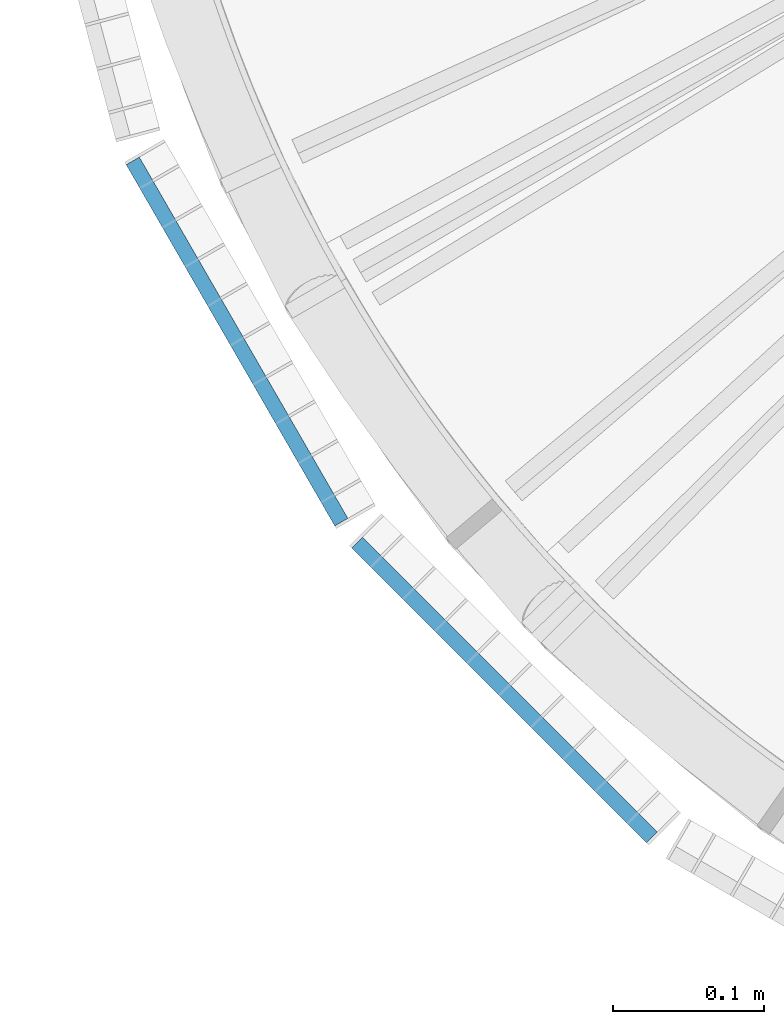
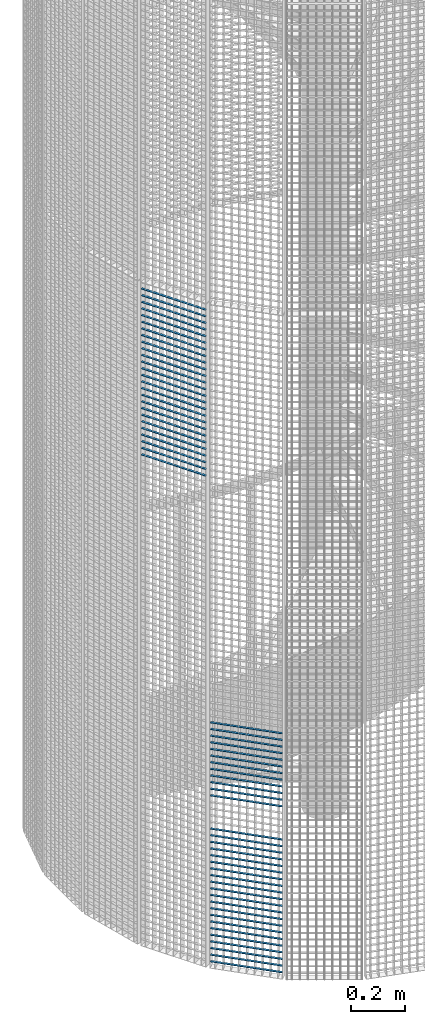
# One storey, part 129 of 1148: 59 beams, 2 elements without a shape of their own.
"""IFC2X3 building model written with IfcOpenShell, lengths in millimetres."""

from ifc_helpers import new_model, si_unit, frame, origin_with_axes, origin_2d_with_axis, place, context, subcontext, project, spatial, rectangle, extrude, material, type_object, element, aggregate, save


model = new_model("IFC2X3")

# Units and contexts
model_context = context("Model", 3, precision=1e-05, world=origin_with_axes())
body_context = subcontext(model_context, "Body", "Model", "MODEL_VIEW")
ifc_project = project(units=[si_unit("LENGTHUNIT", "METRE", prefix="MILLI"), si_unit("AREAUNIT", "SQUARE_METRE"), si_unit("VOLUMEUNIT", "CUBIC_METRE"), si_unit("MASSUNIT", "GRAM", prefix="KILO"), si_unit("TIMEUNIT", "SECOND"), si_unit("PLANEANGLEUNIT", "RADIAN"), si_unit("SOLIDANGLEUNIT", "STERADIAN"), si_unit("THERMODYNAMICTEMPERATUREUNIT", "DEGREE_CELSIUS"), si_unit("LUMINOUSINTENSITYUNIT", "LUMEN")], contexts=[model_context])

# Site, building, storey
site_placement = place(None, origin_with_axes())
site = spatial("IfcSite", under=ifc_project, at=site_placement, Name="Undefined", CompositionType="ELEMENT")
building_placement = place(site_placement, origin_with_axes())
building = spatial("IfcBuilding", under=site, at=building_placement, Name="Undefined", CompositionType="ELEMENT")
storey_placement = place(building_placement, origin_with_axes())
storey = spatial("IfcBuildingStorey", under=building, at=storey_placement, Name="Undefined", CompositionType="ELEMENT", Elevation=0.0)

# Assembly, beams
assembly_1_placement = place(storey_placement, origin_with_axes())
assembly_1 = element("IfcElementAssembly", 1, at=assembly_1_placement, inside=storey, Name="BORDURE", AssemblyPlace="NOTDEFINED", PredefinedType="NOTDEFINED")
ifc_material = material(Name="STEEL/S235JR")
beam_type = type_object("IfcBeamType", Name="PL2*10", PredefinedType="NOTDEFINED")
beam_1_placement = place(assembly_1_placement, frame((-884.927168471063, -689.771348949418, 629.999999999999), z_axis=(-0.70710678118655, -0.707106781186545, 0.0), x_axis=(0.707106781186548, -0.707106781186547, 0.0)))
beam_1 = element("IfcBeam", 2, at=beam_1_placement, type_object=beam_type, material=ifc_material, Name="ENTRETOISE", context=body_context, shape_type="SweptSolid", body=[
    extrude(rectangle(XDim=2.0, YDim=10.0, at=origin_2d_with_axis()), frame((275.999999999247, 9.09494701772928e-13, 1.53210777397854e-14), z_axis=(-1.0, 0.0, 0.0), x_axis=(0.0, -1.0, 0.0)), (0.0, 0.0, 1.0), 276.0),
])
beam_2_placement = place(assembly_1_placement, frame((-884.927168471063, -689.771348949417, 779.999999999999), z_axis=(-0.70710678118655, -0.707106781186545, 0.0), x_axis=(0.707106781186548, -0.707106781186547, 0.0)))
beam_2 = element("IfcBeam", 3, at=beam_2_placement, type_object=beam_type, material=ifc_material, Name="ENTRETOISE", context=body_context, shape_type="SweptSolid", body=[
    extrude(rectangle(XDim=2.0, YDim=10.0, at=origin_2d_with_axis()), frame((275.999999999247, 9.09494701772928e-13, 1.53210777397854e-14), z_axis=(-1.0, 0.0, 0.0), x_axis=(0.0, -1.0, 0.0)), (0.0, 0.0, 1.0), 276.0),
])
beam_3_placement = place(assembly_1_placement, frame((-884.927168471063, -689.771348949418, 599.999999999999), z_axis=(-0.70710678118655, -0.707106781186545, 0.0), x_axis=(0.707106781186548, -0.707106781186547, 0.0)))
beam_3 = element("IfcBeam", 4, at=beam_3_placement, type_object=beam_type, material=ifc_material, Name="ENTRETOISE", context=body_context, shape_type="SweptSolid", body=[
    extrude(rectangle(XDim=2.0, YDim=10.0, at=origin_2d_with_axis()), frame((275.999999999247, 9.09494701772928e-13, 1.53210777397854e-14), z_axis=(-1.0, 0.0, 0.0), x_axis=(0.0, -1.0, 0.0)), (0.0, 0.0, 1.0), 276.0),
])
beam_4_placement = place(assembly_1_placement, frame((-884.927168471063, -689.771348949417, 809.999999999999), z_axis=(-0.70710678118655, -0.707106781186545, 0.0), x_axis=(0.707106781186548, -0.707106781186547, 0.0)))
beam_4 = element("IfcBeam", 5, at=beam_4_placement, type_object=beam_type, material=ifc_material, Name="ENTRETOISE", context=body_context, shape_type="SweptSolid", body=[
    extrude(rectangle(XDim=2.0, YDim=10.0, at=origin_2d_with_axis()), frame((275.999999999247, 9.09494701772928e-13, 1.53210777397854e-14), z_axis=(-1.0, 0.0, 0.0), x_axis=(0.0, -1.0, 0.0)), (0.0, 0.0, 1.0), 276.0),
])
beam_5_placement = place(assembly_1_placement, frame((-884.927168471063, -689.771348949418, 569.999999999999), z_axis=(-0.70710678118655, -0.707106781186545, 0.0), x_axis=(0.707106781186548, -0.707106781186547, 0.0)))
beam_5 = element("IfcBeam", 6, at=beam_5_placement, type_object=beam_type, material=ifc_material, Name="ENTRETOISE", context=body_context, shape_type="SweptSolid", body=[
    extrude(rectangle(XDim=2.0, YDim=10.0, at=origin_2d_with_axis()), frame((275.999999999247, 9.09494701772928e-13, 1.53210777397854e-14), z_axis=(-1.0, 0.0, 0.0), x_axis=(0.0, -1.0, 0.0)), (0.0, 0.0, 1.0), 276.0),
])
beam_6_placement = place(assembly_1_placement, frame((-884.927168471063, -689.771348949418, 539.999999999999), z_axis=(-0.70710678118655, -0.707106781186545, 0.0), x_axis=(0.707106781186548, -0.707106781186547, 0.0)))
beam_6 = element("IfcBeam", 7, at=beam_6_placement, type_object=beam_type, material=ifc_material, Name="ENTRETOISE", context=body_context, shape_type="SweptSolid", body=[
    extrude(rectangle(XDim=2.0, YDim=10.0, at=origin_2d_with_axis()), frame((275.999999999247, 9.09494701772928e-13, 1.53210777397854e-14), z_axis=(-1.0, 0.0, 0.0), x_axis=(0.0, -1.0, 0.0)), (0.0, 0.0, 1.0), 276.0),
])
beam_7_placement = place(assembly_1_placement, frame((-884.927168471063, -689.771348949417, 839.999999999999), z_axis=(-0.70710678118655, -0.707106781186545, 0.0), x_axis=(0.707106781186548, -0.707106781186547, 0.0)))
beam_7 = element("IfcBeam", 8, at=beam_7_placement, type_object=beam_type, material=ifc_material, Name="ENTRETOISE", context=body_context, shape_type="SweptSolid", body=[
    extrude(rectangle(XDim=2.0, YDim=10.0, at=origin_2d_with_axis()), frame((275.999999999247, 9.09494701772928e-13, 1.53210777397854e-14), z_axis=(-1.0, 0.0, 0.0), x_axis=(0.0, -1.0, 0.0)), (0.0, 0.0, 1.0), 276.0),
])
beam_8_placement = place(assembly_1_placement, frame((-884.927168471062, -689.771348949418, 509.999999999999), z_axis=(-0.70710678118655, -0.707106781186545, 0.0), x_axis=(0.707106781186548, -0.707106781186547, 0.0)))
beam_8 = element("IfcBeam", 9, at=beam_8_placement, type_object=beam_type, material=ifc_material, Name="ENTRETOISE", context=body_context, shape_type="SweptSolid", body=[
    extrude(rectangle(XDim=2.0, YDim=10.0, at=origin_2d_with_axis()), frame((275.999999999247, 9.09494701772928e-13, 1.53210777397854e-14), z_axis=(-1.0, 0.0, 0.0), x_axis=(0.0, -1.0, 0.0)), (0.0, 0.0, 1.0), 276.0),
])
beam_9_placement = place(assembly_1_placement, frame((-884.927168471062, -689.771348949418, 479.999999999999), z_axis=(-0.70710678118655, -0.707106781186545, 0.0), x_axis=(0.707106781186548, -0.707106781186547, 0.0)))
beam_9 = element("IfcBeam", 10, at=beam_9_placement, type_object=beam_type, material=ifc_material, Name="ENTRETOISE", context=body_context, shape_type="SweptSolid", body=[
    extrude(rectangle(XDim=2.0, YDim=10.0, at=origin_2d_with_axis()), frame((275.999999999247, 9.09494701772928e-13, 1.53210777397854e-14), z_axis=(-1.0, 0.0, 0.0), x_axis=(0.0, -1.0, 0.0)), (0.0, 0.0, 1.0), 276.0),
])
beam_10_placement = place(assembly_1_placement, frame((-884.927168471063, -689.771348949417, 869.999999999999), z_axis=(-0.70710678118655, -0.707106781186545, 0.0), x_axis=(0.707106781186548, -0.707106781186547, 0.0)))
beam_10 = element("IfcBeam", 11, at=beam_10_placement, type_object=beam_type, material=ifc_material, Name="ENTRETOISE", context=body_context, shape_type="SweptSolid", body=[
    extrude(rectangle(XDim=2.0, YDim=10.0, at=origin_2d_with_axis()), frame((275.999999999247, 9.09494701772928e-13, 1.53210777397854e-14), z_axis=(-1.0, 0.0, 0.0), x_axis=(0.0, -1.0, 0.0)), (0.0, 0.0, 1.0), 276.0),
])
beam_11_placement = place(assembly_1_placement, frame((-884.927168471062, -689.771348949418, 449.999999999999), z_axis=(-0.70710678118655, -0.707106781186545, 0.0), x_axis=(0.707106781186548, -0.707106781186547, 0.0)))
beam_11 = element("IfcBeam", 12, at=beam_11_placement, type_object=beam_type, material=ifc_material, Name="ENTRETOISE", context=body_context, shape_type="SweptSolid", body=[
    extrude(rectangle(XDim=2.0, YDim=10.0, at=origin_2d_with_axis()), frame((275.999999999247, 9.09494701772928e-13, 1.53210777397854e-14), z_axis=(-1.0, 0.0, 0.0), x_axis=(0.0, -1.0, 0.0)), (0.0, 0.0, 1.0), 276.0),
])
beam_12_placement = place(assembly_1_placement, frame((-884.927168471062, -689.771348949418, 419.999999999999), z_axis=(-0.70710678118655, -0.707106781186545, 0.0), x_axis=(0.707106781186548, -0.707106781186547, 0.0)))
beam_12 = element("IfcBeam", 13, at=beam_12_placement, type_object=beam_type, material=ifc_material, Name="ENTRETOISE", context=body_context, shape_type="SweptSolid", body=[
    extrude(rectangle(XDim=2.0, YDim=10.0, at=origin_2d_with_axis()), frame((275.999999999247, 9.09494701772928e-13, 1.53210777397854e-14), z_axis=(-1.0, 0.0, 0.0), x_axis=(0.0, -1.0, 0.0)), (0.0, 0.0, 1.0), 276.0),
])
beam_13_placement = place(assembly_1_placement, frame((-884.927168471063, -689.771348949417, 899.999999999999), z_axis=(-0.70710678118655, -0.707106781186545, 0.0), x_axis=(0.707106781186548, -0.707106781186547, 0.0)))
beam_13 = element("IfcBeam", 14, at=beam_13_placement, type_object=beam_type, material=ifc_material, Name="ENTRETOISE", context=body_context, shape_type="SweptSolid", body=[
    extrude(rectangle(XDim=2.0, YDim=10.0, at=origin_2d_with_axis()), frame((275.999999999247, 9.09494701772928e-13, 1.53210777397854e-14), z_axis=(-1.0, 0.0, 0.0), x_axis=(0.0, -1.0, 0.0)), (0.0, 0.0, 1.0), 276.0),
])
beam_14_placement = place(assembly_1_placement, frame((-884.927168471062, -689.771348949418, 389.999999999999), z_axis=(-0.70710678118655, -0.707106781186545, 0.0), x_axis=(0.707106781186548, -0.707106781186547, 0.0)))
beam_14 = element("IfcBeam", 15, at=beam_14_placement, type_object=beam_type, material=ifc_material, Name="ENTRETOISE", context=body_context, shape_type="SweptSolid", body=[
    extrude(rectangle(XDim=2.0, YDim=10.0, at=origin_2d_with_axis()), frame((275.999999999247, 9.09494701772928e-13, 1.53210777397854e-14), z_axis=(-1.0, 0.0, 0.0), x_axis=(0.0, -1.0, 0.0)), (0.0, 0.0, 1.0), 276.0),
])
beam_15_placement = place(assembly_1_placement, frame((-884.927168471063, -689.771348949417, 929.999999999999), z_axis=(-0.70710678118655, -0.707106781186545, 0.0), x_axis=(0.707106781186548, -0.707106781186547, 0.0)))
beam_15 = element("IfcBeam", 16, at=beam_15_placement, type_object=beam_type, material=ifc_material, Name="ENTRETOISE", context=body_context, shape_type="SweptSolid", body=[
    extrude(rectangle(XDim=2.0, YDim=10.0, at=origin_2d_with_axis()), frame((275.999999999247, 9.09494701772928e-13, 1.53210777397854e-14), z_axis=(-1.0, 0.0, 0.0), x_axis=(0.0, -1.0, 0.0)), (0.0, 0.0, 1.0), 276.0),
])
beam_16_placement = place(assembly_1_placement, frame((-884.927168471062, -689.771348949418, 359.999999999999), z_axis=(-0.70710678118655, -0.707106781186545, 0.0), x_axis=(0.707106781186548, -0.707106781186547, 0.0)))
beam_16 = element("IfcBeam", 17, at=beam_16_placement, type_object=beam_type, material=ifc_material, Name="ENTRETOISE", context=body_context, shape_type="SweptSolid", body=[
    extrude(rectangle(XDim=2.0, YDim=10.0, at=origin_2d_with_axis()), frame((275.999999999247, 9.09494701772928e-13, 1.53210777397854e-14), z_axis=(-1.0, 0.0, 0.0), x_axis=(0.0, -1.0, 0.0)), (0.0, 0.0, 1.0), 276.0),
])
beam_17_placement = place(assembly_1_placement, frame((-884.927168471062, -689.771348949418, 329.999999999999), z_axis=(-0.70710678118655, -0.707106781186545, 0.0), x_axis=(0.707106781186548, -0.707106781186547, 0.0)))
beam_17 = element("IfcBeam", 18, at=beam_17_placement, type_object=beam_type, material=ifc_material, Name="ENTRETOISE", context=body_context, shape_type="SweptSolid", body=[
    extrude(rectangle(XDim=2.0, YDim=10.0, at=origin_2d_with_axis()), frame((275.999999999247, 9.09494701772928e-13, 1.53210777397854e-14), z_axis=(-1.0, 0.0, 0.0), x_axis=(0.0, -1.0, 0.0)), (0.0, 0.0, 1.0), 276.0),
])
beam_18_placement = place(assembly_1_placement, frame((-884.927168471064, -689.771348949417, 959.999999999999), z_axis=(-0.70710678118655, -0.707106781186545, 0.0), x_axis=(0.707106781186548, -0.707106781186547, 0.0)))
beam_18 = element("IfcBeam", 19, at=beam_18_placement, type_object=beam_type, material=ifc_material, Name="ENTRETOISE", context=body_context, shape_type="SweptSolid", body=[
    extrude(rectangle(XDim=2.0, YDim=10.0, at=origin_2d_with_axis()), frame((275.999999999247, 9.09494701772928e-13, 1.53210777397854e-14), z_axis=(-1.0, 0.0, 0.0), x_axis=(0.0, -1.0, 0.0)), (0.0, 0.0, 1.0), 276.0),
])
beam_19_placement = place(assembly_1_placement, frame((-884.927168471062, -689.771348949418, 299.999999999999), z_axis=(-0.70710678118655, -0.707106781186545, 0.0), x_axis=(0.707106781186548, -0.707106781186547, 0.0)))
beam_19 = element("IfcBeam", 20, at=beam_19_placement, type_object=beam_type, material=ifc_material, Name="ENTRETOISE", context=body_context, shape_type="SweptSolid", body=[
    extrude(rectangle(XDim=2.0, YDim=10.0, at=origin_2d_with_axis()), frame((275.999999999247, 9.09494701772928e-13, 1.53210777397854e-14), z_axis=(-1.0, 0.0, 0.0), x_axis=(0.0, -1.0, 0.0)), (0.0, 0.0, 1.0), 276.0),
])
beam_20_placement = place(assembly_1_placement, frame((-884.927168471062, -689.771348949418, 269.999999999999), z_axis=(-0.70710678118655, -0.707106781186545, 0.0), x_axis=(0.707106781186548, -0.707106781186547, 0.0)))
beam_20 = element("IfcBeam", 21, at=beam_20_placement, type_object=beam_type, material=ifc_material, Name="ENTRETOISE", context=body_context, shape_type="SweptSolid", body=[
    extrude(rectangle(XDim=2.0, YDim=10.0, at=origin_2d_with_axis()), frame((275.999999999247, 9.09494701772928e-13, 1.53210777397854e-14), z_axis=(-1.0, 0.0, 0.0), x_axis=(0.0, -1.0, 0.0)), (0.0, 0.0, 1.0), 276.0),
])
beam_21_placement = place(assembly_1_placement, frame((-884.927168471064, -689.771348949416, 989.999999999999), z_axis=(-0.70710678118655, -0.707106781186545, 0.0), x_axis=(0.707106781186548, -0.707106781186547, 0.0)))
beam_21 = element("IfcBeam", 22, at=beam_21_placement, type_object=beam_type, material=ifc_material, Name="ENTRETOISE", context=body_context, shape_type="SweptSolid", body=[
    extrude(rectangle(XDim=2.0, YDim=10.0, at=origin_2d_with_axis()), frame((275.999999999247, 9.09494701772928e-13, 1.53210777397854e-14), z_axis=(-1.0, 0.0, 0.0), x_axis=(0.0, -1.0, 0.0)), (0.0, 0.0, 1.0), 276.0),
])
beam_22_placement = place(assembly_1_placement, frame((-884.927168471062, -689.771348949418, 239.999999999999), z_axis=(-0.70710678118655, -0.707106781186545, 0.0), x_axis=(0.707106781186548, -0.707106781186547, 0.0)))
beam_22 = element("IfcBeam", 23, at=beam_22_placement, type_object=beam_type, material=ifc_material, Name="ENTRETOISE", context=body_context, shape_type="SweptSolid", body=[
    extrude(rectangle(XDim=2.0, YDim=10.0, at=origin_2d_with_axis()), frame((275.999999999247, 9.09494701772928e-13, 1.53210777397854e-14), z_axis=(-1.0, 0.0, 0.0), x_axis=(0.0, -1.0, 0.0)), (0.0, 0.0, 1.0), 276.0),
])
beam_23_placement = place(assembly_1_placement, frame((-884.927168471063, -689.771348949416, 1020.0), z_axis=(-0.70710678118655, -0.707106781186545, 0.0), x_axis=(0.707106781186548, -0.707106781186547, 0.0)))
beam_23 = element("IfcBeam", 24, at=beam_23_placement, type_object=beam_type, material=ifc_material, Name="ENTRETOISE", context=body_context, shape_type="SweptSolid", body=[
    extrude(rectangle(XDim=2.0, YDim=10.0, at=origin_2d_with_axis()), frame((275.999999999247, 9.09494701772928e-13, 1.53210777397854e-14), z_axis=(-1.0, 0.0, 0.0), x_axis=(0.0, -1.0, 0.0)), (0.0, 0.0, 1.0), 276.0),
])
beam_24_placement = place(assembly_1_placement, frame((-884.927168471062, -689.771348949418, 209.999999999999), z_axis=(-0.70710678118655, -0.707106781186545, 0.0), x_axis=(0.707106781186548, -0.707106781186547, 0.0)))
beam_24 = element("IfcBeam", 25, at=beam_24_placement, type_object=beam_type, material=ifc_material, Name="ENTRETOISE", context=body_context, shape_type="SweptSolid", body=[
    extrude(rectangle(XDim=2.0, YDim=10.0, at=origin_2d_with_axis()), frame((275.999999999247, 9.09494701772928e-13, 1.53210777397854e-14), z_axis=(-1.0, 0.0, 0.0), x_axis=(0.0, -1.0, 0.0)), (0.0, 0.0, 1.0), 276.0),
])
beam_25_placement = place(assembly_1_placement, frame((-884.927168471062, -689.771348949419, 179.999999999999), z_axis=(-0.70710678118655, -0.707106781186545, 0.0), x_axis=(0.707106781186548, -0.707106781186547, 0.0)))
beam_25 = element("IfcBeam", 26, at=beam_25_placement, type_object=beam_type, material=ifc_material, Name="ENTRETOISE", context=body_context, shape_type="SweptSolid", body=[
    extrude(rectangle(XDim=2.0, YDim=10.0, at=origin_2d_with_axis()), frame((275.999999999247, 9.09494701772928e-13, 1.53210777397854e-14), z_axis=(-1.0, 0.0, 0.0), x_axis=(0.0, -1.0, 0.0)), (0.0, 0.0, 1.0), 276.0),
])
beam_26_placement = place(assembly_1_placement, frame((-884.927168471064, -689.771348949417, 1050.0), z_axis=(-0.70710678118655, -0.707106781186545, 0.0), x_axis=(0.707106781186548, -0.707106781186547, 0.0)))
beam_26 = element("IfcBeam", 27, at=beam_26_placement, type_object=beam_type, material=ifc_material, Name="ENTRETOISE", context=body_context, shape_type="SweptSolid", body=[
    extrude(rectangle(XDim=2.0, YDim=10.0, at=origin_2d_with_axis()), frame((275.999999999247, 9.09494701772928e-13, 1.53210777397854e-14), z_axis=(-1.0, 0.0, 0.0), x_axis=(0.0, -1.0, 0.0)), (0.0, 0.0, 1.0), 276.0),
])
beam_27_placement = place(assembly_1_placement, frame((-884.927168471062, -689.771348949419, 149.999999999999), z_axis=(-0.70710678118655, -0.707106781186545, 0.0), x_axis=(0.707106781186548, -0.707106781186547, 0.0)))
beam_27 = element("IfcBeam", 28, at=beam_27_placement, type_object=beam_type, material=ifc_material, Name="ENTRETOISE", context=body_context, shape_type="SweptSolid", body=[
    extrude(rectangle(XDim=2.0, YDim=10.0, at=origin_2d_with_axis()), frame((275.999999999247, 9.09494701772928e-13, 1.53210777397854e-14), z_axis=(-1.0, 0.0, 0.0), x_axis=(0.0, -1.0, 0.0)), (0.0, 0.0, 1.0), 276.0),
])
beam_28_placement = place(assembly_1_placement, frame((-884.927168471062, -689.771348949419, 119.999999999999), z_axis=(-0.70710678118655, -0.707106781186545, 0.0), x_axis=(0.707106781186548, -0.707106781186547, 0.0)))
beam_28 = element("IfcBeam", 29, at=beam_28_placement, type_object=beam_type, material=ifc_material, Name="ENTRETOISE", context=body_context, shape_type="SweptSolid", body=[
    extrude(rectangle(XDim=2.0, YDim=10.0, at=origin_2d_with_axis()), frame((275.999999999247, 9.09494701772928e-13, 1.53210777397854e-14), z_axis=(-1.0, 0.0, 0.0), x_axis=(0.0, -1.0, 0.0)), (0.0, 0.0, 1.0), 276.0),
])
beam_29_placement = place(assembly_1_placement, frame((-884.927168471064, -689.771348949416, 1080.0), z_axis=(-0.70710678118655, -0.707106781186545, 0.0), x_axis=(0.707106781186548, -0.707106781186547, 0.0)))
beam_29 = element("IfcBeam", 30, at=beam_29_placement, type_object=beam_type, material=ifc_material, Name="ENTRETOISE", context=body_context, shape_type="SweptSolid", body=[
    extrude(rectangle(XDim=2.0, YDim=10.0, at=origin_2d_with_axis()), frame((275.999999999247, 9.09494701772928e-13, 1.53210777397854e-14), z_axis=(-1.0, 0.0, 0.0), x_axis=(0.0, -1.0, 0.0)), (0.0, 0.0, 1.0), 276.0),
])
beam_30_placement = place(assembly_1_placement, frame((-884.927168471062, -689.771348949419, 89.9999999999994), z_axis=(-0.70710678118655, -0.707106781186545, 0.0), x_axis=(0.707106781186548, -0.707106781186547, 0.0)))
beam_30 = element("IfcBeam", 31, at=beam_30_placement, type_object=beam_type, material=ifc_material, Name="ENTRETOISE", context=body_context, shape_type="SweptSolid", body=[
    extrude(rectangle(XDim=2.0, YDim=10.0, at=origin_2d_with_axis()), frame((275.999999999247, 9.09494701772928e-13, 1.53210777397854e-14), z_axis=(-1.0, 0.0, 0.0), x_axis=(0.0, -1.0, 0.0)), (0.0, 0.0, 1.0), 276.0),
])
beam_31_placement = place(assembly_1_placement, frame((-884.927168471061, -689.771348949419, 59.9999999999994), z_axis=(-0.70710678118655, -0.707106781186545, 0.0), x_axis=(0.707106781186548, -0.707106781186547, 0.0)))
beam_31 = element("IfcBeam", 32, at=beam_31_placement, type_object=beam_type, material=ifc_material, Name="ENTRETOISE", context=body_context, shape_type="SweptSolid", body=[
    extrude(rectangle(XDim=2.0, YDim=10.0, at=origin_2d_with_axis()), frame((275.999999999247, 9.09494701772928e-13, 1.53210777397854e-14), z_axis=(-1.0, 0.0, 0.0), x_axis=(0.0, -1.0, 0.0)), (0.0, 0.0, 1.0), 276.0),
])
beam_32_placement = place(assembly_1_placement, frame((-884.927168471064, -689.771348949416, 1110.0), z_axis=(-0.70710678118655, -0.707106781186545, 0.0), x_axis=(0.707106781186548, -0.707106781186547, 0.0)))
beam_32 = element("IfcBeam", 33, at=beam_32_placement, type_object=beam_type, material=ifc_material, Name="ENTRETOISE", context=body_context, shape_type="SweptSolid", body=[
    extrude(rectangle(XDim=2.0, YDim=10.0, at=origin_2d_with_axis()), frame((275.999999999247, 9.09494701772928e-13, 1.53210777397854e-14), z_axis=(-1.0, 0.0, 0.0), x_axis=(0.0, -1.0, 0.0)), (0.0, 0.0, 1.0), 276.0),
])
beam_33_placement = place(assembly_1_placement, frame((-884.92716847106, -689.771348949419, 29.9999999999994), z_axis=(-0.70710678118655, -0.707106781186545, 0.0), x_axis=(0.707106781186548, -0.707106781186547, 0.0)))
beam_33 = element("IfcBeam", 34, at=beam_33_placement, type_object=beam_type, material=ifc_material, Name="ENTRETOISE", context=body_context, shape_type="SweptSolid", body=[
    extrude(rectangle(XDim=2.0, YDim=10.0, at=origin_2d_with_axis()), frame((275.999999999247, 9.09494701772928e-13, 1.53210777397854e-14), z_axis=(-1.0, 0.0, 0.0), x_axis=(0.0, -1.0, 0.0)), (0.0, 0.0, 1.0), 276.0),
])
aggregate(assembly_1, [beam_1, beam_2, beam_3, beam_4, beam_5, beam_6, beam_7, beam_8, beam_9, beam_10, beam_11, beam_12, beam_13, beam_14, beam_15, beam_16, beam_17, beam_18, beam_19, beam_20, beam_21, beam_22, beam_23, beam_24, beam_25, beam_26, beam_27, beam_28, beam_29, beam_30, beam_31, beam_32, beam_33])

assembly_2_placement = place(storey_placement, origin_with_axes())
assembly_2 = element("IfcElementAssembly", 35, at=assembly_2_placement, inside=storey, Name="BORDURE", AssemblyPlace="NOTDEFINED", PredefinedType="NOTDEFINED")
beam_34_placement = place(assembly_2_placement, frame((-1033.29996828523, -437.231955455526, 2970.0), z_axis=(-0.866025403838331, -0.499999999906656, 0.0), x_axis=(0.499999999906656, -0.866025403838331, 0.0)))
beam_34 = element("IfcBeam", 36, at=beam_34_placement, type_object=beam_type, material=ifc_material, Name="ENTRETOISE", context=body_context, shape_type="SweptSolid", body=[
    extrude(rectangle(XDim=2.0, YDim=10.0, at=origin_2d_with_axis()), frame((275.999999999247, 9.09494701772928e-13, 1.53210777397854e-14), z_axis=(-1.0, 0.0, 0.0), x_axis=(0.0, -1.0, 0.0)), (0.0, 0.0, 1.0), 276.0),
])
beam_35_placement = place(assembly_2_placement, frame((-1033.29996828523, -437.231955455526, 2940.0), z_axis=(-0.866025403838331, -0.499999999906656, 0.0), x_axis=(0.499999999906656, -0.866025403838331, 0.0)))
beam_35 = element("IfcBeam", 37, at=beam_35_placement, type_object=beam_type, material=ifc_material, Name="ENTRETOISE", context=body_context, shape_type="SweptSolid", body=[
    extrude(rectangle(XDim=2.0, YDim=10.0, at=origin_2d_with_axis()), frame((275.999999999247, 9.09494701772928e-13, 1.53210777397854e-14), z_axis=(-1.0, 0.0, 0.0), x_axis=(0.0, -1.0, 0.0)), (0.0, 0.0, 1.0), 276.0),
])
beam_36_placement = place(assembly_2_placement, frame((-1033.29996828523, -437.231955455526, 2910.0), z_axis=(-0.866025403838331, -0.499999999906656, 0.0), x_axis=(0.499999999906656, -0.866025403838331, 0.0)))
beam_36 = element("IfcBeam", 38, at=beam_36_placement, type_object=beam_type, material=ifc_material, Name="ENTRETOISE", context=body_context, shape_type="SweptSolid", body=[
    extrude(rectangle(XDim=2.0, YDim=10.0, at=origin_2d_with_axis()), frame((275.999999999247, 9.09494701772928e-13, 1.53210777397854e-14), z_axis=(-1.0, 0.0, 0.0), x_axis=(0.0, -1.0, 0.0)), (0.0, 0.0, 1.0), 276.0),
])
beam_37_placement = place(assembly_2_placement, frame((-1033.29996828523, -437.231955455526, 2880.0), z_axis=(-0.866025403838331, -0.499999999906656, 0.0), x_axis=(0.499999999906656, -0.866025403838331, 0.0)))
beam_37 = element("IfcBeam", 39, at=beam_37_placement, type_object=beam_type, material=ifc_material, Name="ENTRETOISE", context=body_context, shape_type="SweptSolid", body=[
    extrude(rectangle(XDim=2.0, YDim=10.0, at=origin_2d_with_axis()), frame((275.999999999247, 9.09494701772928e-13, 1.53210777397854e-14), z_axis=(-1.0, 0.0, 0.0), x_axis=(0.0, -1.0, 0.0)), (0.0, 0.0, 1.0), 276.0),
])
beam_38_placement = place(assembly_2_placement, frame((-1033.29996828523, -437.231955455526, 2850.0), z_axis=(-0.866025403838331, -0.499999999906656, 0.0), x_axis=(0.499999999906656, -0.866025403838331, 0.0)))
beam_38 = element("IfcBeam", 40, at=beam_38_placement, type_object=beam_type, material=ifc_material, Name="ENTRETOISE", context=body_context, shape_type="SweptSolid", body=[
    extrude(rectangle(XDim=2.0, YDim=10.0, at=origin_2d_with_axis()), frame((275.999999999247, 9.09494701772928e-13, 1.53210777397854e-14), z_axis=(-1.0, 0.0, 0.0), x_axis=(0.0, -1.0, 0.0)), (0.0, 0.0, 1.0), 276.0),
])
beam_39_placement = place(assembly_2_placement, frame((-1033.29996828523, -437.231955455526, 2820.0), z_axis=(-0.866025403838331, -0.499999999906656, 0.0), x_axis=(0.499999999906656, -0.866025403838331, 0.0)))
beam_39 = element("IfcBeam", 41, at=beam_39_placement, type_object=beam_type, material=ifc_material, Name="ENTRETOISE", context=body_context, shape_type="SweptSolid", body=[
    extrude(rectangle(XDim=2.0, YDim=10.0, at=origin_2d_with_axis()), frame((275.999999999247, 9.09494701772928e-13, 1.53210777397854e-14), z_axis=(-1.0, 0.0, 0.0), x_axis=(0.0, -1.0, 0.0)), (0.0, 0.0, 1.0), 276.0),
])
beam_40_placement = place(assembly_2_placement, frame((-1033.29996828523, -437.231955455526, 2790.0), z_axis=(-0.866025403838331, -0.499999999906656, 0.0), x_axis=(0.499999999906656, -0.866025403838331, 0.0)))
beam_40 = element("IfcBeam", 42, at=beam_40_placement, type_object=beam_type, material=ifc_material, Name="ENTRETOISE", context=body_context, shape_type="SweptSolid", body=[
    extrude(rectangle(XDim=2.0, YDim=10.0, at=origin_2d_with_axis()), frame((275.999999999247, 9.09494701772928e-13, 1.53210777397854e-14), z_axis=(-1.0, 0.0, 0.0), x_axis=(0.0, -1.0, 0.0)), (0.0, 0.0, 1.0), 276.0),
])
beam_41_placement = place(assembly_2_placement, frame((-1033.29996828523, -437.231955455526, 2760.0), z_axis=(-0.866025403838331, -0.499999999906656, 0.0), x_axis=(0.499999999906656, -0.866025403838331, 0.0)))
beam_41 = element("IfcBeam", 43, at=beam_41_placement, type_object=beam_type, material=ifc_material, Name="ENTRETOISE", context=body_context, shape_type="SweptSolid", body=[
    extrude(rectangle(XDim=2.0, YDim=10.0, at=origin_2d_with_axis()), frame((275.999999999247, 9.09494701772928e-13, 1.53210777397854e-14), z_axis=(-1.0, 0.0, 0.0), x_axis=(0.0, -1.0, 0.0)), (0.0, 0.0, 1.0), 276.0),
])
beam_42_placement = place(assembly_2_placement, frame((-1033.29996828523, -437.231955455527, 2730.0), z_axis=(-0.866025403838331, -0.499999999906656, 0.0), x_axis=(0.499999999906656, -0.866025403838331, 0.0)))
beam_42 = element("IfcBeam", 44, at=beam_42_placement, type_object=beam_type, material=ifc_material, Name="ENTRETOISE", context=body_context, shape_type="SweptSolid", body=[
    extrude(rectangle(XDim=2.0, YDim=10.0, at=origin_2d_with_axis()), frame((275.999999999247, 9.09494701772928e-13, 1.53210777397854e-14), z_axis=(-1.0, 0.0, 0.0), x_axis=(0.0, -1.0, 0.0)), (0.0, 0.0, 1.0), 276.0),
])
beam_43_placement = place(assembly_2_placement, frame((-1033.29996828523, -437.231955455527, 2700.0), z_axis=(-0.866025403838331, -0.499999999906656, 0.0), x_axis=(0.499999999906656, -0.866025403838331, 0.0)))
beam_43 = element("IfcBeam", 45, at=beam_43_placement, type_object=beam_type, material=ifc_material, Name="ENTRETOISE", context=body_context, shape_type="SweptSolid", body=[
    extrude(rectangle(XDim=2.0, YDim=10.0, at=origin_2d_with_axis()), frame((275.999999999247, 9.09494701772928e-13, 1.53210777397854e-14), z_axis=(-1.0, 0.0, 0.0), x_axis=(0.0, -1.0, 0.0)), (0.0, 0.0, 1.0), 276.0),
])
beam_44_placement = place(assembly_2_placement, frame((-1033.29996828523, -437.231955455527, 2670.0), z_axis=(-0.866025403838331, -0.499999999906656, 0.0), x_axis=(0.499999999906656, -0.866025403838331, 0.0)))
beam_44 = element("IfcBeam", 46, at=beam_44_placement, type_object=beam_type, material=ifc_material, Name="ENTRETOISE", context=body_context, shape_type="SweptSolid", body=[
    extrude(rectangle(XDim=2.0, YDim=10.0, at=origin_2d_with_axis()), frame((275.999999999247, 9.09494701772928e-13, 1.53210777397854e-14), z_axis=(-1.0, 0.0, 0.0), x_axis=(0.0, -1.0, 0.0)), (0.0, 0.0, 1.0), 276.0),
])
beam_45_placement = place(assembly_2_placement, frame((-1033.29996828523, -437.231955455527, 2640.0), z_axis=(-0.866025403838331, -0.499999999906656, 0.0), x_axis=(0.499999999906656, -0.866025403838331, 0.0)))
beam_45 = element("IfcBeam", 47, at=beam_45_placement, type_object=beam_type, material=ifc_material, Name="ENTRETOISE", context=body_context, shape_type="SweptSolid", body=[
    extrude(rectangle(XDim=2.0, YDim=10.0, at=origin_2d_with_axis()), frame((275.999999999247, 9.09494701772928e-13, 1.53210777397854e-14), z_axis=(-1.0, 0.0, 0.0), x_axis=(0.0, -1.0, 0.0)), (0.0, 0.0, 1.0), 276.0),
])
beam_46_placement = place(assembly_2_placement, frame((-1033.29996828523, -437.231955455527, 2610.0), z_axis=(-0.866025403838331, -0.499999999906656, 0.0), x_axis=(0.499999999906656, -0.866025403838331, 0.0)))
beam_46 = element("IfcBeam", 48, at=beam_46_placement, type_object=beam_type, material=ifc_material, Name="ENTRETOISE", context=body_context, shape_type="SweptSolid", body=[
    extrude(rectangle(XDim=2.0, YDim=10.0, at=origin_2d_with_axis()), frame((275.999999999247, 9.09494701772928e-13, 1.53210777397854e-14), z_axis=(-1.0, 0.0, 0.0), x_axis=(0.0, -1.0, 0.0)), (0.0, 0.0, 1.0), 276.0),
])
beam_47_placement = place(assembly_2_placement, frame((-1033.29996828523, -437.231955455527, 2580.0), z_axis=(-0.866025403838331, -0.499999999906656, 0.0), x_axis=(0.499999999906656, -0.866025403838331, 0.0)))
beam_47 = element("IfcBeam", 49, at=beam_47_placement, type_object=beam_type, material=ifc_material, Name="ENTRETOISE", context=body_context, shape_type="SweptSolid", body=[
    extrude(rectangle(XDim=2.0, YDim=10.0, at=origin_2d_with_axis()), frame((275.999999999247, 9.09494701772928e-13, 1.53210777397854e-14), z_axis=(-1.0, 0.0, 0.0), x_axis=(0.0, -1.0, 0.0)), (0.0, 0.0, 1.0), 276.0),
])
beam_48_placement = place(assembly_2_placement, frame((-1033.29996828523, -437.231955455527, 2550.0), z_axis=(-0.866025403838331, -0.499999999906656, 0.0), x_axis=(0.499999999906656, -0.866025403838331, 0.0)))
beam_48 = element("IfcBeam", 50, at=beam_48_placement, type_object=beam_type, material=ifc_material, Name="ENTRETOISE", context=body_context, shape_type="SweptSolid", body=[
    extrude(rectangle(XDim=2.0, YDim=10.0, at=origin_2d_with_axis()), frame((275.999999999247, 9.09494701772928e-13, 1.53210777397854e-14), z_axis=(-1.0, 0.0, 0.0), x_axis=(0.0, -1.0, 0.0)), (0.0, 0.0, 1.0), 276.0),
])
beam_49_placement = place(assembly_2_placement, frame((-1033.29996828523, -437.231955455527, 2520.0), z_axis=(-0.866025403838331, -0.499999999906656, 0.0), x_axis=(0.499999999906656, -0.866025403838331, 0.0)))
beam_49 = element("IfcBeam", 51, at=beam_49_placement, type_object=beam_type, material=ifc_material, Name="ENTRETOISE", context=body_context, shape_type="SweptSolid", body=[
    extrude(rectangle(XDim=2.0, YDim=10.0, at=origin_2d_with_axis()), frame((275.999999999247, 9.09494701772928e-13, 1.53210777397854e-14), z_axis=(-1.0, 0.0, 0.0), x_axis=(0.0, -1.0, 0.0)), (0.0, 0.0, 1.0), 276.0),
])
beam_50_placement = place(assembly_2_placement, frame((-1033.29996828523, -437.231955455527, 2490.0), z_axis=(-0.866025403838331, -0.499999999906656, 0.0), x_axis=(0.499999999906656, -0.866025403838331, 0.0)))
beam_50 = element("IfcBeam", 52, at=beam_50_placement, type_object=beam_type, material=ifc_material, Name="ENTRETOISE", context=body_context, shape_type="SweptSolid", body=[
    extrude(rectangle(XDim=2.0, YDim=10.0, at=origin_2d_with_axis()), frame((275.999999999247, 9.09494701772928e-13, 1.53210777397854e-14), z_axis=(-1.0, 0.0, 0.0), x_axis=(0.0, -1.0, 0.0)), (0.0, 0.0, 1.0), 276.0),
])
beam_51_placement = place(assembly_2_placement, frame((-1033.29996828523, -437.231955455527, 2460.0), z_axis=(-0.866025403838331, -0.499999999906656, 0.0), x_axis=(0.499999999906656, -0.866025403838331, 0.0)))
beam_51 = element("IfcBeam", 53, at=beam_51_placement, type_object=beam_type, material=ifc_material, Name="ENTRETOISE", context=body_context, shape_type="SweptSolid", body=[
    extrude(rectangle(XDim=2.0, YDim=10.0, at=origin_2d_with_axis()), frame((275.999999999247, 9.09494701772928e-13, 1.53210777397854e-14), z_axis=(-1.0, 0.0, 0.0), x_axis=(0.0, -1.0, 0.0)), (0.0, 0.0, 1.0), 276.0),
])
beam_52_placement = place(assembly_2_placement, frame((-1033.29996828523, -437.231955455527, 2430.0), z_axis=(-0.866025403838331, -0.499999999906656, 0.0), x_axis=(0.499999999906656, -0.866025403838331, 0.0)))
beam_52 = element("IfcBeam", 54, at=beam_52_placement, type_object=beam_type, material=ifc_material, Name="ENTRETOISE", context=body_context, shape_type="SweptSolid", body=[
    extrude(rectangle(XDim=2.0, YDim=10.0, at=origin_2d_with_axis()), frame((275.999999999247, 9.09494701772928e-13, 1.53210777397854e-14), z_axis=(-1.0, 0.0, 0.0), x_axis=(0.0, -1.0, 0.0)), (0.0, 0.0, 1.0), 276.0),
])
beam_53_placement = place(assembly_2_placement, frame((-1033.29996828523, -437.231955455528, 2400.0), z_axis=(-0.866025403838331, -0.499999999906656, 0.0), x_axis=(0.499999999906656, -0.866025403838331, 0.0)))
beam_53 = element("IfcBeam", 55, at=beam_53_placement, type_object=beam_type, material=ifc_material, Name="ENTRETOISE", context=body_context, shape_type="SweptSolid", body=[
    extrude(rectangle(XDim=2.0, YDim=10.0, at=origin_2d_with_axis()), frame((275.999999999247, 9.09494701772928e-13, 1.53210777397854e-14), z_axis=(-1.0, 0.0, 0.0), x_axis=(0.0, -1.0, 0.0)), (0.0, 0.0, 1.0), 276.0),
])
beam_54_placement = place(assembly_2_placement, frame((-1033.29996828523, -437.231955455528, 2370.0), z_axis=(-0.866025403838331, -0.499999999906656, 0.0), x_axis=(0.499999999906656, -0.866025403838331, 0.0)))
beam_54 = element("IfcBeam", 56, at=beam_54_placement, type_object=beam_type, material=ifc_material, Name="ENTRETOISE", context=body_context, shape_type="SweptSolid", body=[
    extrude(rectangle(XDim=2.0, YDim=10.0, at=origin_2d_with_axis()), frame((275.999999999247, 9.09494701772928e-13, 1.53210777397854e-14), z_axis=(-1.0, 0.0, 0.0), x_axis=(0.0, -1.0, 0.0)), (0.0, 0.0, 1.0), 276.0),
])
beam_55_placement = place(assembly_2_placement, frame((-1033.29996828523, -437.231955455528, 2340.0), z_axis=(-0.866025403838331, -0.499999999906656, 0.0), x_axis=(0.499999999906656, -0.866025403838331, 0.0)))
beam_55 = element("IfcBeam", 57, at=beam_55_placement, type_object=beam_type, material=ifc_material, Name="ENTRETOISE", context=body_context, shape_type="SweptSolid", body=[
    extrude(rectangle(XDim=2.0, YDim=10.0, at=origin_2d_with_axis()), frame((275.999999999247, 9.09494701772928e-13, 1.53210777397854e-14), z_axis=(-1.0, 0.0, 0.0), x_axis=(0.0, -1.0, 0.0)), (0.0, 0.0, 1.0), 276.0),
])
beam_56_placement = place(assembly_2_placement, frame((-1033.29996828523, -437.231955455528, 2310.0), z_axis=(-0.866025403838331, -0.499999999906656, 0.0), x_axis=(0.499999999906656, -0.866025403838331, 0.0)))
beam_56 = element("IfcBeam", 58, at=beam_56_placement, type_object=beam_type, material=ifc_material, Name="ENTRETOISE", context=body_context, shape_type="SweptSolid", body=[
    extrude(rectangle(XDim=2.0, YDim=10.0, at=origin_2d_with_axis()), frame((275.999999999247, 9.09494701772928e-13, 1.53210777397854e-14), z_axis=(-1.0, 0.0, 0.0), x_axis=(0.0, -1.0, 0.0)), (0.0, 0.0, 1.0), 276.0),
])
beam_57_placement = place(assembly_2_placement, frame((-1033.29996828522, -437.231955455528, 2280.0), z_axis=(-0.866025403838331, -0.499999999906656, 0.0), x_axis=(0.499999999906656, -0.866025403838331, 0.0)))
beam_57 = element("IfcBeam", 59, at=beam_57_placement, type_object=beam_type, material=ifc_material, Name="ENTRETOISE", context=body_context, shape_type="SweptSolid", body=[
    extrude(rectangle(XDim=2.0, YDim=10.0, at=origin_2d_with_axis()), frame((275.999999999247, 9.09494701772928e-13, 1.53210777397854e-14), z_axis=(-1.0, 0.0, 0.0), x_axis=(0.0, -1.0, 0.0)), (0.0, 0.0, 1.0), 276.0),
])
beam_58_placement = place(assembly_2_placement, frame((-1033.29996828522, -437.231955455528, 2250.0), z_axis=(-0.866025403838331, -0.499999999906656, 0.0), x_axis=(0.499999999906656, -0.866025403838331, 0.0)))
beam_58 = element("IfcBeam", 60, at=beam_58_placement, type_object=beam_type, material=ifc_material, Name="ENTRETOISE", context=body_context, shape_type="SweptSolid", body=[
    extrude(rectangle(XDim=2.0, YDim=10.0, at=origin_2d_with_axis()), frame((275.999999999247, 9.09494701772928e-13, 1.53210777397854e-14), z_axis=(-1.0, 0.0, 0.0), x_axis=(0.0, -1.0, 0.0)), (0.0, 0.0, 1.0), 276.0),
])
beam_59_placement = place(assembly_2_placement, frame((-1033.29996828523, -437.231955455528, 2220.0), z_axis=(-0.866025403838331, -0.499999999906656, 0.0), x_axis=(0.499999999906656, -0.866025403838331, 0.0)))
beam_59 = element("IfcBeam", 61, at=beam_59_placement, type_object=beam_type, material=ifc_material, Name="ENTRETOISE", context=body_context, shape_type="SweptSolid", body=[
    extrude(rectangle(XDim=2.0, YDim=10.0, at=origin_2d_with_axis()), frame((275.999999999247, 9.09494701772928e-13, 1.53210777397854e-14), z_axis=(-1.0, 0.0, 0.0), x_axis=(0.0, -1.0, 0.0)), (0.0, 0.0, 1.0), 276.0),
])
aggregate(assembly_2, [beam_34, beam_35, beam_36, beam_37, beam_38, beam_39, beam_40, beam_41, beam_42, beam_43, beam_44, beam_45, beam_46, beam_47, beam_48, beam_49, beam_50, beam_51, beam_52, beam_53, beam_54, beam_55, beam_56, beam_57, beam_58, beam_59])

save(model, "model.ifc")
